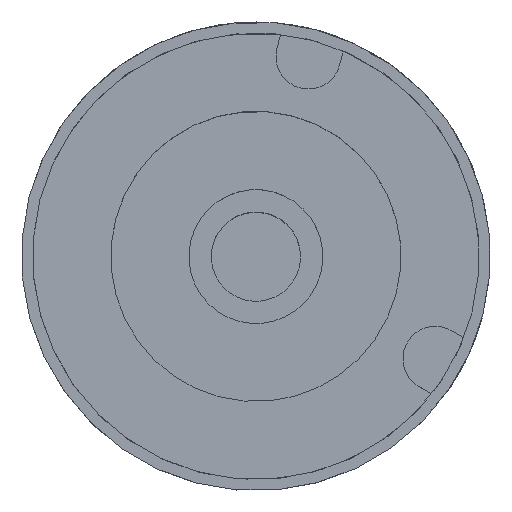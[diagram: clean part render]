
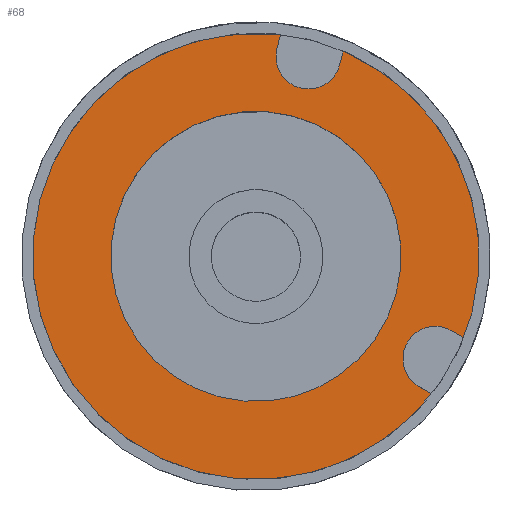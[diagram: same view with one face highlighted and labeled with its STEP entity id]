
A CAD part, top view. The second image highlights one B-rep face of the part: STEP entity #68.
In plain terms, the highlighted planar face has unit normal (0, 0, 1) as drawn and (0, 0, -1) by its records, which use the part's own axes.
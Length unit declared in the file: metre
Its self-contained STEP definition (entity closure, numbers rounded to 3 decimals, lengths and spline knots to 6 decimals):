
#68 = ADVANCED_FACE ( 'NONE', ( #1001, #4167 ), #447, .F. ) ;
#75 = VERTEX_POINT ( 'NONE', #1239 ) ;
#220 = CIRCLE ( 'NONE', #4028, 0.0029 ) ;
#338 = EDGE_CURVE ( 'NONE', #3409, #4552, #220, .T. ) ;
#344 = ORIENTED_EDGE ( 'NONE', *, *, #712, .F. ) ;
#353 = ORIENTED_EDGE ( 'NONE', *, *, #4569, .F. ) ;
#421 = DIRECTION ( 'NONE',  ( 0., 0., 1. ) ) ;
#447 = PLANE ( 'NONE',  #2076 ) ;
#497 = CIRCLE ( 'NONE', #4794, 0.02 ) ;
#533 = ORIENTED_EDGE ( 'NONE', *, *, #3174, .F. ) ;
#558 = CARTESIAN_POINT ( 'NONE',  ( -0.01787, -0.004788, 0.002 ) ) ;
#575 = DIRECTION ( 'NONE',  ( 0., 0., 1. ) ) ;
#624 = DIRECTION ( 'NONE',  ( 0., 0., 1. ) ) ;
#696 = AXIS2_PLACEMENT_3D ( 'NONE', #4353, #2301, #4851 ) ;
#712 = EDGE_CURVE ( 'NONE', #1558, #5367, #1547, .T. ) ;
#722 = ORIENTED_EDGE ( 'NONE', *, *, #2989, .F. ) ;
#727 = EDGE_LOOP ( 'NONE', ( #4401, #344, #2261, #353, #804, #853, #1523, #2029, #4781, #722, #533 ) ) ;
#764 = CARTESIAN_POINT ( 'NONE',  ( -0.01862, -0.001987, 0.002 ) ) ;
#804 = ORIENTED_EDGE ( 'NONE', *, *, #5165, .F. ) ;
#808 = DIRECTION ( 'NONE',  ( 0., 0., 1. ) ) ;
#811 = CIRCLE ( 'NONE', #1785, 0.02 ) ;
#853 = ORIENTED_EDGE ( 'NONE', *, *, #338, .T. ) ;
#857 = EDGE_CURVE ( 'NONE', #2384, #5038, #3834, .T. ) ;
#929 = DIRECTION ( 'NONE',  ( 1., 0., 0. ) ) ;
#951 = DIRECTION ( 'NONE',  ( 0., 0., 1. ) ) ;
#974 = CARTESIAN_POINT ( 'NONE',  ( -0.013, 0., 0.002 ) ) ;
#1001 = FACE_BOUND ( 'NONE', #3373, .T. ) ;
#1006 = VERTEX_POINT ( 'NONE', #1872 ) ;
#1191 = VERTEX_POINT ( 'NONE', #1693 ) ;
#1233 = CARTESIAN_POINT ( 'NONE',  ( 0., 0., 0.002 ) ) ;
#1239 = CARTESIAN_POINT ( 'NONE',  ( -0.0029, 0.0185, 0.002 ) ) ;
#1319 = DIRECTION ( 'NONE',  ( 0., 0., -1. ) ) ;
#1427 = EDGE_CURVE ( 'NONE', #4175, #3688, #4867, .T. ) ;
#1433 = CARTESIAN_POINT ( 'NONE',  ( 0.0029, 0.019789, 0.002 ) ) ;
#1514 = CARTESIAN_POINT ( 'NONE',  ( -0.01497, -0.004788, 0.002 ) ) ;
#1523 = ORIENTED_EDGE ( 'NONE', *, *, #3314, .T. ) ;
#1546 = CARTESIAN_POINT ( 'NONE',  ( 0., 0., 0.002 ) ) ;
#1547 = LINE ( 'NONE', #3403, #2085 ) ;
#1552 = CARTESIAN_POINT ( 'NONE',  ( -0.01787, -0.004788, 0.002 ) ) ;
#1558 = VERTEX_POINT ( 'NONE', #1433 ) ;
#1577 = DIRECTION ( 'NONE',  ( 0., 1., 0. ) ) ;
#1631 = CARTESIAN_POINT ( 'NONE',  ( -0.017119, -0.007589, 0.002 ) ) ;
#1693 = CARTESIAN_POINT ( 'NONE',  ( -0.018364, -0.007923, 0.002 ) ) ;
#1704 = CIRCLE ( 'NONE', #3092, 0.013 ) ;
#1754 = VECTOR ( 'NONE', #2073, 1. ) ;
#1781 = CARTESIAN_POINT ( 'NONE',  ( 0., 0., 0.002 ) ) ;
#1785 = AXIS2_PLACEMENT_3D ( 'NONE', #2752, #624, #2339 ) ;
#1816 = DIRECTION ( 'NONE',  ( 1., 0., 0. ) ) ;
#1872 = CARTESIAN_POINT ( 'NONE',  ( -0.0029, 0.019789, 0.002 ) ) ;
#2029 = ORIENTED_EDGE ( 'NONE', *, *, #2423, .F. ) ;
#2073 = DIRECTION ( 'NONE',  ( -0.966, -0.259, 0. ) ) ;
#2076 = AXIS2_PLACEMENT_3D ( 'NONE', #4192, #808, #4973 ) ;
#2085 = VECTOR ( 'NONE', #4600, 1. ) ;
#2132 = CARTESIAN_POINT ( 'NONE',  ( -0.018364, -0.007923, 0.002 ) ) ;
#2162 = VERTEX_POINT ( 'NONE', #3302 ) ;
#2261 = ORIENTED_EDGE ( 'NONE', *, *, #2726, .F. ) ;
#2301 = DIRECTION ( 'NONE',  ( 0., 0., 1. ) ) ;
#2339 = DIRECTION ( 'NONE',  ( -1., 0., 0. ) ) ;
#2345 = DIRECTION ( 'NONE',  ( 1., 0., 0. ) ) ;
#2384 = VERTEX_POINT ( 'NONE', #3924 ) ;
#2423 = EDGE_CURVE ( 'NONE', #5038, #3554, #5424, .T. ) ;
#2559 = LINE ( 'NONE', #3268, #3654 ) ;
#2624 = CARTESIAN_POINT ( 'NONE',  ( 0., 0.0185, 0.002 ) ) ;
#2726 = EDGE_CURVE ( 'NONE', #2162, #1558, #497, .T. ) ;
#2752 = CARTESIAN_POINT ( 'NONE',  ( 0., 0., 0.002 ) ) ;
#2850 = LINE ( 'NONE', #2132, #1754 ) ;
#2989 = EDGE_CURVE ( 'NONE', #1006, #2384, #4301, .T. ) ;
#3092 = AXIS2_PLACEMENT_3D ( 'NONE', #1546, #3237, #3607 ) ;
#3174 = EDGE_CURVE ( 'NONE', #75, #1006, #2559, .T. ) ;
#3202 = AXIS2_PLACEMENT_3D ( 'NONE', #1552, #4825, #2345 ) ;
#3237 = DIRECTION ( 'NONE',  ( 0., 0., -1. ) ) ;
#3268 = CARTESIAN_POINT ( 'NONE',  ( -0.0029, -0.000106, 0.002 ) ) ;
#3287 = AXIS2_PLACEMENT_3D ( 'NONE', #3923, #951, #3488 ) ;
#3302 = CARTESIAN_POINT ( 'NONE',  ( 0.02, 0., 0.002 ) ) ;
#3314 = EDGE_CURVE ( 'NONE', #4552, #3554, #4053, .T. ) ;
#3371 = CARTESIAN_POINT ( 'NONE',  ( -0.019865, -0.00232, 0.002 ) ) ;
#3373 = EDGE_LOOP ( 'NONE', ( #3484, #4394 ) ) ;
#3403 = CARTESIAN_POINT ( 'NONE',  ( 0.0029, -0.000106, 0.002 ) ) ;
#3409 = VERTEX_POINT ( 'NONE', #1631 ) ;
#3484 = ORIENTED_EDGE ( 'NONE', *, *, #3827, .F. ) ;
#3488 = DIRECTION ( 'NONE',  ( -1., 0., 0. ) ) ;
#3554 = VERTEX_POINT ( 'NONE', #764 ) ;
#3597 = VECTOR ( 'NONE', #5163, 1. ) ;
#3607 = DIRECTION ( 'NONE',  ( -1., 0., 0. ) ) ;
#3654 = VECTOR ( 'NONE', #1577, 1. ) ;
#3688 = VERTEX_POINT ( 'NONE', #974 ) ;
#3827 = EDGE_CURVE ( 'NONE', #3688, #4175, #1704, .T. ) ;
#3834 = CIRCLE ( 'NONE', #3287, 0.02 ) ;
#3878 = DIRECTION ( 'NONE',  ( 0., 0., -1. ) ) ;
#3915 = CARTESIAN_POINT ( 'NONE',  ( -0.01862, -0.001987, 0.002 ) ) ;
#3923 = CARTESIAN_POINT ( 'NONE',  ( 0., 0., 0.002 ) ) ;
#3924 = CARTESIAN_POINT ( 'NONE',  ( -0.02, 0., 0.002 ) ) ;
#4028 = AXIS2_PLACEMENT_3D ( 'NONE', #558, #575, #1816 ) ;
#4053 = CIRCLE ( 'NONE', #3202, 0.0029 ) ;
#4167 = FACE_OUTER_BOUND ( 'NONE', #727, .T. ) ;
#4175 = VERTEX_POINT ( 'NONE', #4429 ) ;
#4192 = CARTESIAN_POINT ( 'NONE',  ( -0.02024, -0.020239, 0.002 ) ) ;
#4222 = CIRCLE ( 'NONE', #4629, 0.0029 ) ;
#4301 = CIRCLE ( 'NONE', #696, 0.02 ) ;
#4319 = DIRECTION ( 'NONE',  ( -1., 0., 0. ) ) ;
#4353 = CARTESIAN_POINT ( 'NONE',  ( 0., 0., 0.002 ) ) ;
#4394 = ORIENTED_EDGE ( 'NONE', *, *, #1427, .F. ) ;
#4401 = ORIENTED_EDGE ( 'NONE', *, *, #5280, .F. ) ;
#4429 = CARTESIAN_POINT ( 'NONE',  ( 0.013, 0., 0.002 ) ) ;
#4552 = VERTEX_POINT ( 'NONE', #1514 ) ;
#4569 = EDGE_CURVE ( 'NONE', #1191, #2162, #811, .T. ) ;
#4600 = DIRECTION ( 'NONE',  ( 0., -1., 0. ) ) ;
#4629 = AXIS2_PLACEMENT_3D ( 'NONE', #2624, #1319, #929 ) ;
#4781 = ORIENTED_EDGE ( 'NONE', *, *, #857, .F. ) ;
#4794 = AXIS2_PLACEMENT_3D ( 'NONE', #1233, #421, #5032 ) ;
#4825 = DIRECTION ( 'NONE',  ( 0., 0., 1. ) ) ;
#4851 = DIRECTION ( 'NONE',  ( -1., 0., 0. ) ) ;
#4867 = CIRCLE ( 'NONE', #4868, 0.013 ) ;
#4868 = AXIS2_PLACEMENT_3D ( 'NONE', #1781, #3878, #4319 ) ;
#4973 = DIRECTION ( 'NONE',  ( 1., 0., 0. ) ) ;
#5032 = DIRECTION ( 'NONE',  ( -1., 0., 0. ) ) ;
#5038 = VERTEX_POINT ( 'NONE', #3371 ) ;
#5088 = CARTESIAN_POINT ( 'NONE',  ( 0.0029, 0.0185, 0.002 ) ) ;
#5163 = DIRECTION ( 'NONE',  ( 0.966, 0.259, 0. ) ) ;
#5165 = EDGE_CURVE ( 'NONE', #3409, #1191, #2850, .T. ) ;
#5280 = EDGE_CURVE ( 'NONE', #5367, #75, #4222, .T. ) ;
#5367 = VERTEX_POINT ( 'NONE', #5088 ) ;
#5424 = LINE ( 'NONE', #3915, #3597 ) ;
